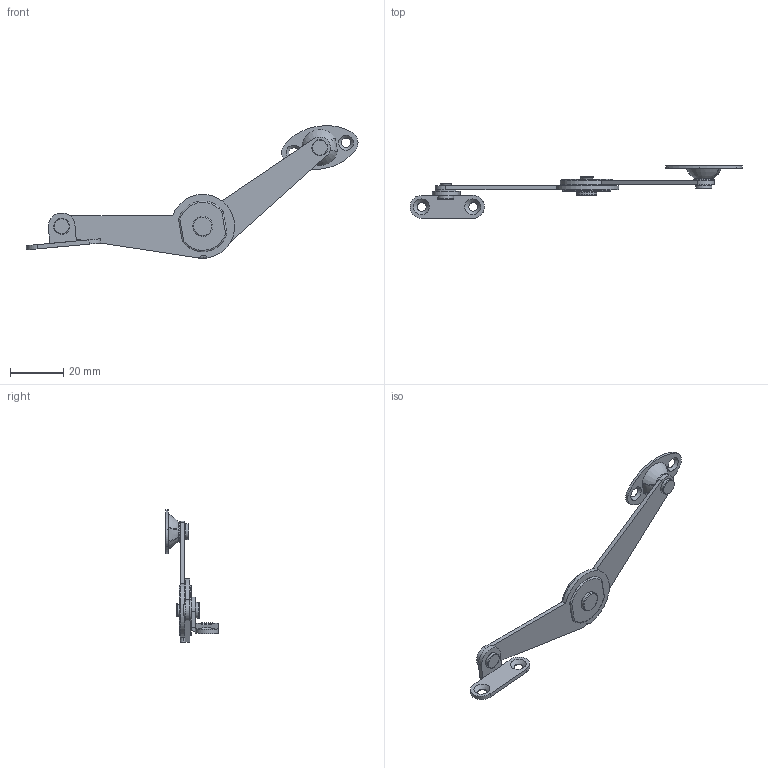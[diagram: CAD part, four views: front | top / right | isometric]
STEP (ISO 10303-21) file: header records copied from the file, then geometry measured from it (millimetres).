
FILE_DESCRIPTION((''),'2;1');
FILE_NAME('\\Cad-srv01-2\図面\900 図面交換受渡し場所\■■カタログ作成中（消さないでください)■■\1203　APPIT　3D\03購買先データ\双葉\ステー\ｽﾃｰ\EDS-23 L\EDS-23 L.stp','2013-07-11T15:45:28',('Administrator'),(''),'Autodesk Inventor 11','Autodesk Inventor 11','');
FILE_SCHEMA(('AUTOMOTIVE_DESIGN { 1 0 10303 214 1 1 1 1 }'));
Length unit declared in the file: millimetre
Products named in the file (12): S-23L-SD_ｽﾃｰ(左付き); s-0206_O; S-06R_e; S-2305__; S-1902_Se; S-2302__B; S-2301A__A; S-0602_L(); S-063N_N_(); S-06RA_eA; S-2304L_B; S-2303_A
Assembly tree (12 placements, depth 2):
  S-23L-SD_ｽﾃｰ(左付き)
    s-0206_O
    S-06R_e
    S-2305__
    S-1902_Se
    S-2302__B
    S-2301A__A
    S-0602_L()
    S-063N_N_()  x2
    S-06RA_eA
    S-2304L_B
    S-2303_A
Bounding box: 124.73 x 19.7 x 49.8 mm (x, y, z)
Volume: 4216.2 mm3; surface area: 7609.1 mm2
Topology: 12 solids, 12 shells, 170 faces, 373 edges, 234 vertices
Faces by surface type: cylinder 63, plane 61, bspline 21, torus 16, cone 5, sphere 4
Full cylindrical faces by diameter (mm): 2 x2, 2.4 x1, 3 x2, 3.1 x3, 3.2 x3, 3.3 x2, 4 x1, 4.1 x3, 4.2 x1, 4.5 x2, 4.8 x1, 5 x1, 6 x2, 7.5 x1, 8 x3, 19 x1
Entity records: 9455 total; most frequent: CARTESIAN_POINT 5661, DIRECTION 746, ORIENTED_EDGE 634, AXIS2_PLACEMENT_3D 317, EDGE_CURVE 317, EDGE_LOOP 247, VERTEX_POINT 226, FACE_OUTER_BOUND 166
